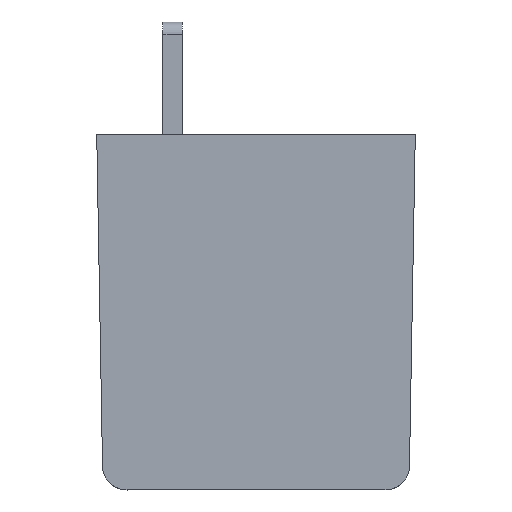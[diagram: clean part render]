
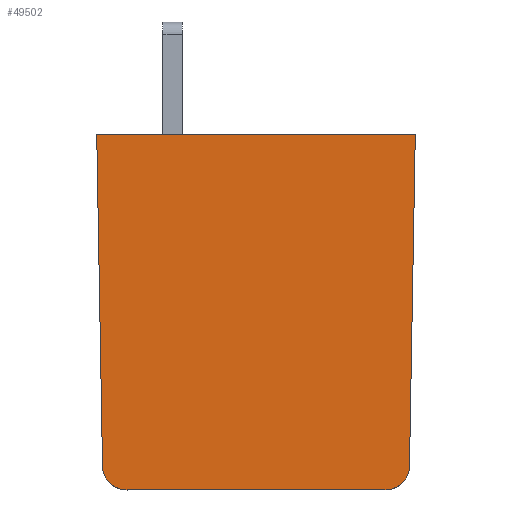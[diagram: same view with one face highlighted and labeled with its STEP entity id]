
A CAD part, left-side view. The second image highlights one B-rep face of the part: STEP entity #49502.
In plain terms, the highlighted planar face has unit normal (-1, 0, 0).
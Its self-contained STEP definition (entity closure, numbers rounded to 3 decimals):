
#20024=CARTESIAN_POINT('',(0.,11.764,-13.501));
#20025=DIRECTION('',(-1.,0.,0.));
#20026=DIRECTION('',(0.,1.,-0.017));
#20027=AXIS2_PLACEMENT_3D('',#20024,#20025,#20026);
#20029=DIRECTION('',(0.,-0.017,-1.));
#20030=VECTOR('',#20029,13.52);
#20031=CARTESIAN_POINT('',(0.,13.,-0.001));
#20032=LINE('',#20031,#20030);
#20033=DIRECTION('',(0.,1.,0.));
#20034=VECTOR('',#20033,13.);
#20035=CARTESIAN_POINT('',(0.,0.,-0.001));
#20036=LINE('',#20035,#20034);
#20037=DIRECTION('',(0.,-0.017,1.));
#20038=VECTOR('',#20037,13.52);
#20039=CARTESIAN_POINT('',(0.,0.236,-13.519));
#20040=LINE('',#20039,#20038);
#20041=CARTESIAN_POINT('',(0.,1.236,-13.501));
#20042=DIRECTION('',(-1.,0.,0.));
#20043=DIRECTION('',(0.,0.,-1.));
#20044=AXIS2_PLACEMENT_3D('',#20041,#20042,#20043);
#20046=DIRECTION('',(0.,-1.,0.));
#20047=VECTOR('',#20046,10.528);
#20048=CARTESIAN_POINT('',(0.,11.764,-14.501));
#20049=LINE('',#20048,#20047);
#21143=CARTESIAN_POINT('',(0.,0.,-0.001));
#21145=VERTEX_POINT('',#21143);
#21146=CARTESIAN_POINT('',(0.,13.,-0.001));
#21147=VERTEX_POINT('',#21146);
#21154=CARTESIAN_POINT('',(0.,0.236,-13.519));
#21156=VERTEX_POINT('',#21154);
#21157=CARTESIAN_POINT('',(0.,1.236,-14.501));
#21159=VERTEX_POINT('',#21157);
#21162=CARTESIAN_POINT('',(0.,11.764,-14.501));
#21164=VERTEX_POINT('',#21162);
#21165=CARTESIAN_POINT('',(0.,12.764,-13.519));
#21167=VERTEX_POINT('',#21165);
#49485=CARTESIAN_POINT('',(0.,6.5,-0.001));
#49486=DIRECTION('',(-1.,0.,0.));
#49487=DIRECTION('',(0.,1.,0.));
#49488=AXIS2_PLACEMENT_3D('',#49485,#49486,#49487);
#49489=PLANE('',#49488);
#49491=ORIENTED_EDGE('',*,*,#49490,.F.);
#49492=ORIENTED_EDGE('',*,*,#49478,.F.);
#49493=ORIENTED_EDGE('',*,*,#49392,.F.);
#49495=ORIENTED_EDGE('',*,*,#49494,.F.);
#49497=ORIENTED_EDGE('',*,*,#49496,.F.);
#49499=ORIENTED_EDGE('',*,*,#49498,.F.);
#49500=EDGE_LOOP('',(#49491,#49492,#49493,#49495,#49497,#49499));
#49501=FACE_OUTER_BOUND('',#49500,.F.);
#49502=ADVANCED_FACE('',(#49501),#49489,.T.);
#20028=CIRCLE('',#20027,1.);
#20045=CIRCLE('',#20044,1.);
#49392=EDGE_CURVE('',#21145,#21147,#20036,.T.);
#49478=EDGE_CURVE('',#21147,#21167,#20032,.T.);
#49490=EDGE_CURVE('',#21167,#21164,#20028,.T.);
#49494=EDGE_CURVE('',#21156,#21145,#20040,.T.);
#49496=EDGE_CURVE('',#21159,#21156,#20045,.T.);
#49498=EDGE_CURVE('',#21164,#21159,#20049,.T.);
